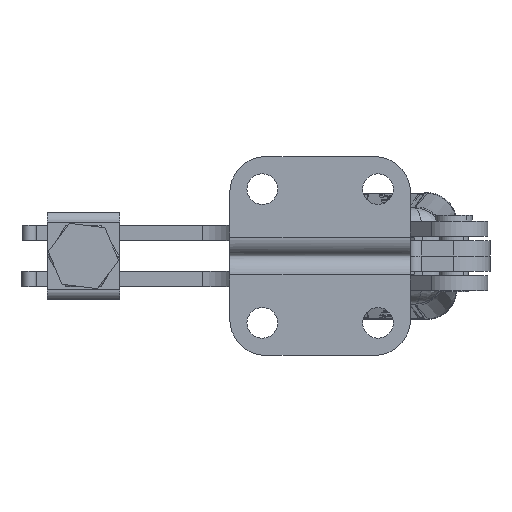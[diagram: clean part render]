
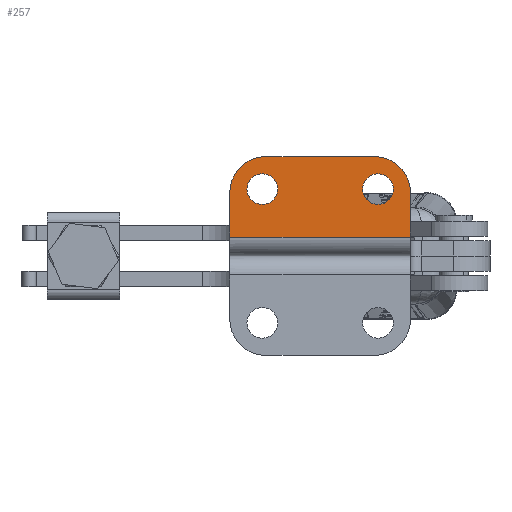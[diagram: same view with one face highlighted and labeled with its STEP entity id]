
A CAD part, front view. The second image highlights one B-rep face of the part: STEP entity #257.
In plain terms, the highlighted planar face has unit normal (0, -1, 0).
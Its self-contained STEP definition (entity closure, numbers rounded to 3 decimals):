
#12 = AXIS2_PLACEMENT_3D ( 'NONE', #2932, #16141, #4923 ) ;
#257 = ADVANCED_FACE ( 'NONE', ( #9968, #6181, #351 ), #2526, .F. ) ;
#283 = CARTESIAN_POINT ( 'NONE',  ( 25., 21.909, 13.25 ) ) ;
#287 = CIRCLE ( 'NONE', #19178, 4.25 ) ;
#344 = DIRECTION ( 'NONE',  ( 0., 1., 0. ) ) ;
#351 = FACE_BOUND ( 'NONE', #23081, .T. ) ;
#805 = CARTESIAN_POINT ( 'NONE',  ( -15., 21.909, 13.25 ) ) ;
#1129 = DIRECTION ( 'NONE',  ( -1., 0., 0. ) ) ;
#1196 = EDGE_CURVE ( 'NONE', #3333, #5310, #23151, .T. ) ;
#1335 = VECTOR ( 'NONE', #4708, 1000. ) ;
#1629 = CARTESIAN_POINT ( 'NONE',  ( -16., 21.909, 14.25 ) ) ;
#1638 = LINE ( 'NONE', #3099, #16158 ) ;
#1718 = DIRECTION ( 'NONE',  ( 1., 0., 0. ) ) ;
#1860 = EDGE_CURVE ( 'NONE', #3778, #3059, #2085, .T. ) ;
#2085 = LINE ( 'NONE', #10708, #11069 ) ;
#2244 = CARTESIAN_POINT ( 'NONE',  ( 20.25, 21.909, 14.25 ) ) ;
#2479 = CARTESIAN_POINT ( 'NONE',  ( -25., 21.909, 1. ) ) ;
#2526 = PLANE ( 'NONE',  #18186 ) ;
#2716 = CARTESIAN_POINT ( 'NONE',  ( -15., 21.909, 23.25 ) ) ;
#2932 = CARTESIAN_POINT ( 'NONE',  ( 16., 21.909, 14.25 ) ) ;
#3038 = EDGE_CURVE ( 'NONE', #5310, #3373, #8706, .T. ) ;
#3059 = VERTEX_POINT ( 'NONE', #10463 ) ;
#3099 = CARTESIAN_POINT ( 'NONE',  ( -15., 21.909, 1. ) ) ;
#3333 = VERTEX_POINT ( 'NONE', #2479 ) ;
#3373 = VERTEX_POINT ( 'NONE', #3877 ) ;
#3590 = DIRECTION ( 'NONE',  ( 1., 0., 0. ) ) ;
#3778 = VERTEX_POINT ( 'NONE', #283 ) ;
#3877 = CARTESIAN_POINT ( 'NONE',  ( -15., 21.909, 23.25 ) ) ;
#4567 = VERTEX_POINT ( 'NONE', #2244 ) ;
#4708 = DIRECTION ( 'NONE',  ( 1., 0., 0. ) ) ;
#4923 = DIRECTION ( 'NONE',  ( 1., 0., 0. ) ) ;
#5282 = AXIS2_PLACEMENT_3D ( 'NONE', #1629, #14889, #3590 ) ;
#5310 = VERTEX_POINT ( 'NONE', #9171 ) ;
#5829 = VERTEX_POINT ( 'NONE', #10584 ) ;
#6181 = FACE_BOUND ( 'NONE', #17080, .T. ) ;
#6553 = LINE ( 'NONE', #2716, #1335 ) ;
#6691 = DIRECTION ( 'NONE',  ( 1., 0., 0. ) ) ;
#7395 = AXIS2_PLACEMENT_3D ( 'NONE', #21668, #10651, #23496 ) ;
#7499 = CARTESIAN_POINT ( 'NONE',  ( 11.75, 21.909, 14.25 ) ) ;
#7890 = ORIENTED_EDGE ( 'NONE', *, *, #14945, .F. ) ;
#8016 = AXIS2_PLACEMENT_3D ( 'NONE', #10432, #16346, #6691 ) ;
#8159 = ORIENTED_EDGE ( 'NONE', *, *, #1860, .F. ) ;
#8224 = ORIENTED_EDGE ( 'NONE', *, *, #12116, .F. ) ;
#8445 = ORIENTED_EDGE ( 'NONE', *, *, #14431, .F. ) ;
#8485 = ORIENTED_EDGE ( 'NONE', *, *, #3038, .F. ) ;
#8509 = ORIENTED_EDGE ( 'NONE', *, *, #1196, .F. ) ;
#8706 = CIRCLE ( 'NONE', #8016, 10. ) ;
#8791 = ORIENTED_EDGE ( 'NONE', *, *, #19868, .T. ) ;
#8995 = ORIENTED_EDGE ( 'NONE', *, *, #12458, .T. ) ;
#9033 = ORIENTED_EDGE ( 'NONE', *, *, #13167, .T. ) ;
#9083 = ORIENTED_EDGE ( 'NONE', *, *, #9139, .T. ) ;
#9139 = EDGE_CURVE ( 'NONE', #5829, #20407, #14458, .T. ) ;
#9171 = CARTESIAN_POINT ( 'NONE',  ( -25., 21.909, 13.25 ) ) ;
#9378 = CARTESIAN_POINT ( 'NONE',  ( 16., 21.909, 14.25 ) ) ;
#9540 = AXIS2_PLACEMENT_3D ( 'NONE', #22032, #11022, #23870 ) ;
#9770 = DIRECTION ( 'NONE',  ( 0., 0., -1. ) ) ;
#9968 = FACE_OUTER_BOUND ( 'NONE', #12353, .T. ) ;
#10432 = CARTESIAN_POINT ( 'NONE',  ( -15., 21.909, 13.25 ) ) ;
#10463 = CARTESIAN_POINT ( 'NONE',  ( 25., 21.909, 1. ) ) ;
#10584 = CARTESIAN_POINT ( 'NONE',  ( -20.25, 21.909, 14.25 ) ) ;
#10651 = DIRECTION ( 'NONE',  ( 0., 1., 0. ) ) ;
#10708 = CARTESIAN_POINT ( 'NONE',  ( 25., 21.909, -3.45 ) ) ;
#11022 = DIRECTION ( 'NONE',  ( 0., 1., 0. ) ) ;
#11069 = VECTOR ( 'NONE', #9770, 1000. ) ;
#11166 = CIRCLE ( 'NONE', #12, 4.25 ) ;
#11229 = DIRECTION ( 'NONE',  ( 1., 0., 0. ) ) ;
#12116 = EDGE_CURVE ( 'NONE', #18955, #3778, #14668, .T. ) ;
#12353 = EDGE_LOOP ( 'NONE', ( #7890, #8159, #8224, #8445, #8485, #8509 ) ) ;
#12458 = EDGE_CURVE ( 'NONE', #22017, #4567, #11166, .T. ) ;
#13167 = EDGE_CURVE ( 'NONE', #20407, #5829, #18395, .T. ) ;
#14431 = EDGE_CURVE ( 'NONE', #3373, #18955, #6553, .T. ) ;
#14458 = CIRCLE ( 'NONE', #5282, 4.25 ) ;
#14668 = CIRCLE ( 'NONE', #9540, 10. ) ;
#14889 = DIRECTION ( 'NONE',  ( 0., 1., 0. ) ) ;
#14945 = EDGE_CURVE ( 'NONE', #3059, #3333, #1638, .T. ) ;
#16141 = DIRECTION ( 'NONE',  ( 0., 1., 0. ) ) ;
#16158 = VECTOR ( 'NONE', #1129, 1000. ) ;
#16258 = DIRECTION ( 'NONE',  ( 0., 0., 1. ) ) ;
#16346 = DIRECTION ( 'NONE',  ( 0., 1., 0. ) ) ;
#17080 = EDGE_LOOP ( 'NONE', ( #8791, #8995 ) ) ;
#17220 = CARTESIAN_POINT ( 'NONE',  ( -25., 21.909, 13.25 ) ) ;
#18186 = AXIS2_PLACEMENT_3D ( 'NONE', #805, #344, #1718 ) ;
#18347 = VECTOR ( 'NONE', #16258, 1000. ) ;
#18395 = CIRCLE ( 'NONE', #7395, 4.25 ) ;
#18955 = VERTEX_POINT ( 'NONE', #20705 ) ;
#19178 = AXIS2_PLACEMENT_3D ( 'NONE', #9378, #22249, #11229 ) ;
#19868 = EDGE_CURVE ( 'NONE', #4567, #22017, #287, .T. ) ;
#20407 = VERTEX_POINT ( 'NONE', #23326 ) ;
#20705 = CARTESIAN_POINT ( 'NONE',  ( 15., 21.909, 23.25 ) ) ;
#21668 = CARTESIAN_POINT ( 'NONE',  ( -16., 21.909, 14.25 ) ) ;
#22017 = VERTEX_POINT ( 'NONE', #7499 ) ;
#22032 = CARTESIAN_POINT ( 'NONE',  ( 15., 21.909, 13.25 ) ) ;
#22249 = DIRECTION ( 'NONE',  ( 0., 1., 0. ) ) ;
#23081 = EDGE_LOOP ( 'NONE', ( #9033, #9083 ) ) ;
#23151 = LINE ( 'NONE', #17220, #18347 ) ;
#23326 = CARTESIAN_POINT ( 'NONE',  ( -11.75, 21.909, 14.25 ) ) ;
#23496 = DIRECTION ( 'NONE',  ( 1., 0., 0. ) ) ;
#23870 = DIRECTION ( 'NONE',  ( 1., 0., 0. ) ) ;
